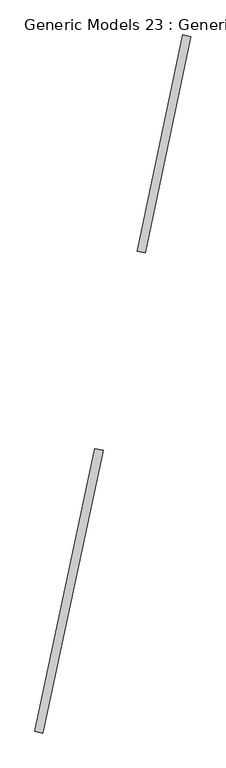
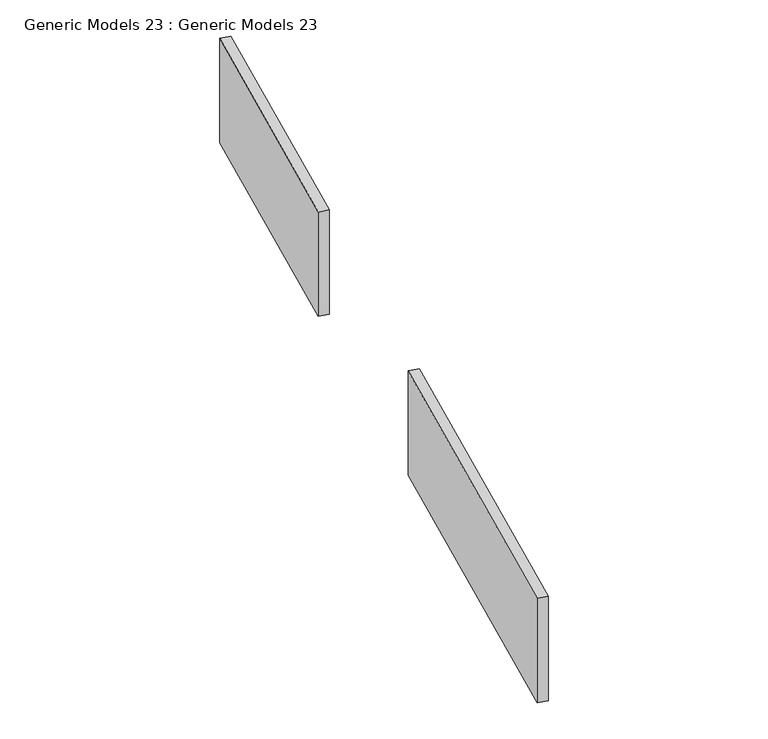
"""IFC4 building model written with IfcOpenShell, lengths in millimetres: proxy geometry, Generic Models 23 : Generic Models 23."""

from ifc_helpers import new_model, si_unit, frame, origin, place, context, project, spatial, polyline, outline, extrude, source, transform, mapped, element, save


def generic_models_23_generic_models_23_e55d72dc(model_context):
    return source(origin(), model_context, "Body", "SweptSolid", [
        extrude(outline(polyline([(446244.2145134, 20964.4158978), (446788.1247388, 23523.3123208), (446860.7054202, 23507.8848208), (446316.7951949, 20948.9883977), (446244.2145134, 20964.4158978)])), frame((0.0, 0.0, 1200.0), z_axis=(0.0, 0.0, 1.0), x_axis=(1.0, 0.0, 0.0)), (0.0, 0.0, 1.0), 800.0),
        extrude(outline(polyline([(447168.3536389, 25312.1486531), (447584.1770206, 27268.4438545), (447656.757702, 27253.0163544), (447240.9343204, 25296.721153), (447168.3536389, 25312.1486531)])), frame((0.0, 0.0, 1200.0), z_axis=(0.0, 0.0, 1.0), x_axis=(1.0, 0.0, 0.0)), (0.0, 0.0, 1.0), 800.0),
    ])


if __name__ == "__main__":
    model = new_model("IFC4")
    model_context = context("Model", 3, world=origin())
    ifc_project = project(units=[si_unit("LENGTHUNIT", "METRE", prefix="MILLI")], contexts=[model_context])
    site = spatial("IfcSite", under=ifc_project)
    building = spatial("IfcBuilding", under=site)
    placement = place(None, origin())
    generic_models_23_generic_models_23_shape = generic_models_23_generic_models_23_e55d72dc(model_context)
    element("IfcBuildingElementProxy", 1, Name="Generic Models 23 : Generic Models 23", ObjectType="Generic Models 23 : Generic Models 23", at=placement, inside=building, context=model_context, shape_type="MappedRepresentation", body=[
        mapped(generic_models_23_generic_models_23_shape, transform((0.0, 0.0, 0.0), x_axis=(1.0, 0.0, 0.0), y_axis=(0.0, 1.0, 0.0), z_axis=(0.0, 0.0, 1.0))),
    ])
    save(model, "model.ifc")
